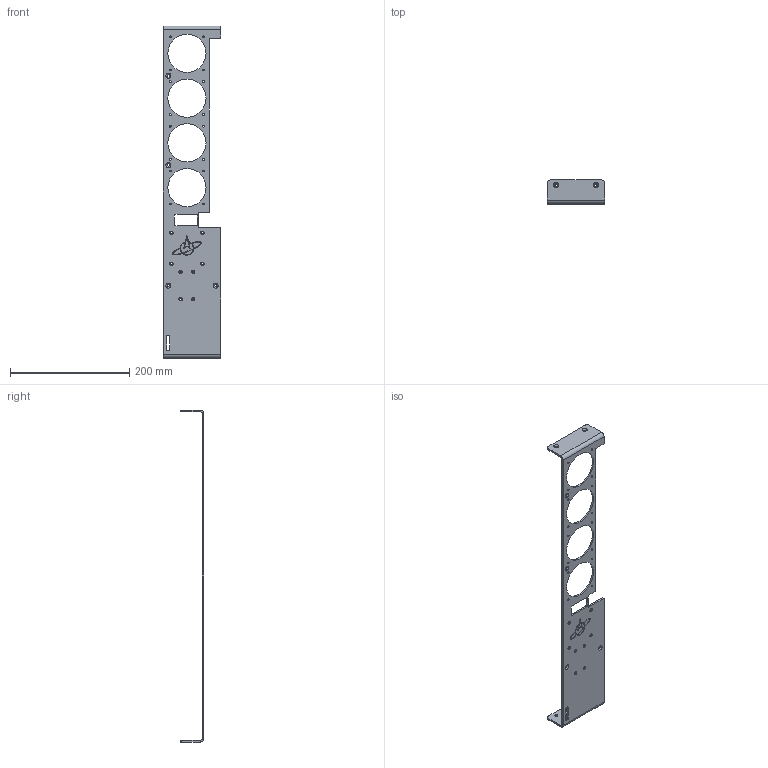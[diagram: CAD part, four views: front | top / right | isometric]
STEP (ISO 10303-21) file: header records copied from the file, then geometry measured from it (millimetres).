
FILE_DESCRIPTION(/* description */ (''),/* implementation_level */ '2;1');
FILE_NAME(/* name */ 'C:/Users/anton/Documents/Kerbal Space Program/Kerbal_Control_Panel/KCP2/CAD/STEPs/GaugeTower_FrontPlate_v16_Folded.step',/* time_stamp */ '2020-11-12T08:21:16-08:00',/* author */ (''),/* organization */ (''),/* preprocessor_version */ 'ST-DEVELOPER v18.1',/* originating_system */ 'Autodesk Translation Framework v9.3.0.1241',/* authorisation */ '');
FILE_SCHEMA (('AUTOMOTIVE_DESIGN { 1 0 10303 214 3 1 1 }'));
Length unit declared in the file: millimetre
Products named in the file (1): Front Plate
Bounding box: 97 x 40.02 x 557 mm (x, y, z)
Volume: 119912.7 mm3; surface area: 88998.5 mm2
Topology: 2 solids, 2 shells, 131 faces, 349 edges, 222 vertices
Faces by surface type: cylinder 68, plane 40, cone 16, bspline 7
Full cylindrical faces by diameter (mm): 3 x16, 3.264 x8, 4.496 x8, 64 x4
Entity records: 4679 total; most frequent: CARTESIAN_POINT 1058, DIRECTION 737, ORIENTED_EDGE 698, EDGE_CURVE 349, AXIS2_PLACEMENT_3D 277, VERTEX_POINT 222, EDGE_LOOP 217, LINE 183
